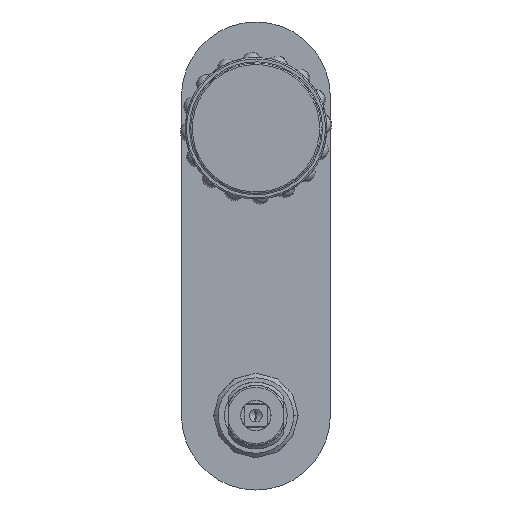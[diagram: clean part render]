
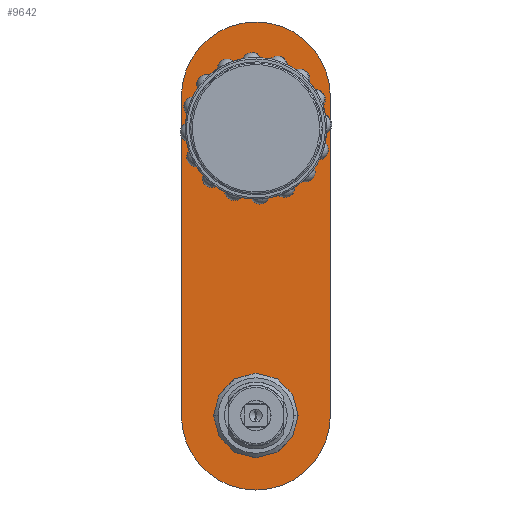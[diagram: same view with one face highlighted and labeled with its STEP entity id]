
A CAD part, front view. The second image highlights one B-rep face of the part: STEP entity #9642.
In plain terms, the highlighted planar face has unit normal (0, -1, 0).
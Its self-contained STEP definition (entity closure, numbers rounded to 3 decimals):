
#9388 = VERTEX_POINT ( 'NONE', #17090 ) ;
#9396 = EDGE_CURVE ( 'NONE', #9388, #9401, #17093, .T. ) ;
#9401 = VERTEX_POINT ( 'NONE', #17145 ) ;
#9467 = VERTEX_POINT ( 'NONE', #17270 ) ;
#9468 = EDGE_CURVE ( 'NONE', #9483, #9467, #17269, .T. ) ;
#9483 = VERTEX_POINT ( 'NONE', #17284 ) ;
#9592 = ORIENTED_EDGE ( 'NONE', *, *, #9700, .T. ) ;
#9632 = EDGE_LOOP ( 'NONE', ( #9592, #9643, #9704, #9706 ) ) ;
#9634 = VERTEX_POINT ( 'NONE', #17555 ) ;
#9638 = EDGE_LOOP ( 'NONE', ( #9701, #9655 ) ) ;
#9642 = ADVANCED_FACE ( 'NONE', ( #17605, #17602, #17597 ), #17556, .F. ) ;
#9643 = ORIENTED_EDGE ( 'NONE', *, *, #9644, .F. ) ;
#9644 = EDGE_CURVE ( 'NONE', #9645, #9634, #17593, .T. ) ;
#9645 = VERTEX_POINT ( 'NONE', #17594 ) ;
#9647 = EDGE_CURVE ( 'NONE', #9702, #9649, #17650, .T. ) ;
#9649 = VERTEX_POINT ( 'NONE', #17604 ) ;
#9655 = ORIENTED_EDGE ( 'NONE', *, *, #9396, .F. ) ;
#9687 = ORIENTED_EDGE ( 'NONE', *, *, #9468, .F. ) ;
#9688 = EDGE_CURVE ( 'NONE', #9401, #9388, #17703, .T. ) ;
#9700 = EDGE_CURVE ( 'NONE', #9649, #9634, #17732, .T. ) ;
#9701 = ORIENTED_EDGE ( 'NONE', *, *, #9688, .F. ) ;
#9702 = VERTEX_POINT ( 'NONE', #17731 ) ;
#9703 = EDGE_CURVE ( 'NONE', #9645, #9702, #17679, .T. ) ;
#9704 = ORIENTED_EDGE ( 'NONE', *, *, #9703, .T. ) ;
#9705 = EDGE_CURVE ( 'NONE', #9467, #9483, #17692, .T. ) ;
#9706 = ORIENTED_EDGE ( 'NONE', *, *, #9647, .T. ) ;
#9707 = EDGE_LOOP ( 'NONE', ( #9708, #9687 ) ) ;
#9708 = ORIENTED_EDGE ( 'NONE', *, *, #9705, .F. ) ;
#17090 = CARTESIAN_POINT ( 'NONE',  ( 22.5, 0., 95. ) ) ;
#17093 = CIRCLE ( 'NONE', #17148, 22.5 ) ;
#17145 = CARTESIAN_POINT ( 'NONE',  ( -22.5, 0., 95. ) ) ;
#17146 = DIRECTION ( 'NONE',  ( -1., 0., 0. ) ) ;
#17147 = DIRECTION ( 'NONE',  ( 0., -1., 0. ) ) ;
#17148 = AXIS2_PLACEMENT_3D ( 'NONE', #17150, #17147, #17146 ) ;
#17150 = CARTESIAN_POINT ( 'NONE',  ( 0., 0., 95. ) ) ;
#17247 = AXIS2_PLACEMENT_3D ( 'NONE', #17299, #17298, #17297 ) ;
#17269 = CIRCLE ( 'NONE', #17247, 11. ) ;
#17270 = CARTESIAN_POINT ( 'NONE',  ( -11., 0., 0. ) ) ;
#17284 = CARTESIAN_POINT ( 'NONE',  ( 11., 0., 0. ) ) ;
#17297 = DIRECTION ( 'NONE',  ( -1., 0., 0. ) ) ;
#17298 = DIRECTION ( 'NONE',  ( 0., -1., 0. ) ) ;
#17299 = CARTESIAN_POINT ( 'NONE',  ( 0., 0., 0. ) ) ;
#17489 = CARTESIAN_POINT ( 'NONE',  ( 0., 0., 0. ) ) ;
#17555 = CARTESIAN_POINT ( 'NONE',  ( -24.5, 0., 0. ) ) ;
#17556 = PLANE ( 'NONE',  #17610 ) ;
#17586 = CARTESIAN_POINT ( 'NONE',  ( -13.926, 0., 105. ) ) ;
#17587 = DIRECTION ( 'NONE',  ( 0., 0., 1. ) ) ;
#17588 = DIRECTION ( 'NONE',  ( 0., 1., 0. ) ) ;
#17590 = AXIS2_PLACEMENT_3D ( 'NONE', #17601, #17646, #17645 ) ;
#17591 = DIRECTION ( 'NONE',  ( -1., 0., 0. ) ) ;
#17592 = DIRECTION ( 'NONE',  ( 0., 1., 0. ) ) ;
#17593 = CIRCLE ( 'NONE', #17603, 24.5 ) ;
#17594 = CARTESIAN_POINT ( 'NONE',  ( 24.5, 0., 0. ) ) ;
#17597 = FACE_BOUND ( 'NONE', #9638, .T. ) ;
#17601 = CARTESIAN_POINT ( 'NONE',  ( 0., 0., 105. ) ) ;
#17602 = FACE_BOUND ( 'NONE', #9707, .T. ) ;
#17603 = AXIS2_PLACEMENT_3D ( 'NONE', #17489, #17588, #17587 ) ;
#17604 = CARTESIAN_POINT ( 'NONE',  ( -24.5, 0., 105. ) ) ;
#17605 = FACE_OUTER_BOUND ( 'NONE', #9632, .T. ) ;
#17610 = AXIS2_PLACEMENT_3D ( 'NONE', #17586, #17592, #17591 ) ;
#17645 = DIRECTION ( 'NONE',  ( 0., 0., -1. ) ) ;
#17646 = DIRECTION ( 'NONE',  ( 0., -1., 0. ) ) ;
#17650 = CIRCLE ( 'NONE', #17590, 24.5 ) ;
#17679 = LINE ( 'NONE', #17726, #17725 ) ;
#17692 = CIRCLE ( 'NONE', #17720, 11. ) ;
#17693 = DIRECTION ( 'NONE',  ( -1., 0., 0. ) ) ;
#17694 = DIRECTION ( 'NONE',  ( 0., -1., 0. ) ) ;
#17695 = CARTESIAN_POINT ( 'NONE',  ( 0., 0., 95. ) ) ;
#17703 = CIRCLE ( 'NONE', #17704, 22.5 ) ;
#17704 = AXIS2_PLACEMENT_3D ( 'NONE', #17695, #17694, #17693 ) ;
#17718 = DIRECTION ( 'NONE',  ( -1., 0., 0. ) ) ;
#17719 = DIRECTION ( 'NONE',  ( 0., -1., 0. ) ) ;
#17720 = AXIS2_PLACEMENT_3D ( 'NONE', #17727, #17719, #17718 ) ;
#17724 = DIRECTION ( 'NONE',  ( 0., 0., 1. ) ) ;
#17725 = VECTOR ( 'NONE', #17724, 1000. ) ;
#17726 = CARTESIAN_POINT ( 'NONE',  ( 24.5, 0., 0. ) ) ;
#17727 = CARTESIAN_POINT ( 'NONE',  ( 0., 0., 0. ) ) ;
#17728 = DIRECTION ( 'NONE',  ( 0., 0., -1. ) ) ;
#17729 = VECTOR ( 'NONE', #17728, 1000. ) ;
#17730 = CARTESIAN_POINT ( 'NONE',  ( -24.5, 0., 105. ) ) ;
#17731 = CARTESIAN_POINT ( 'NONE',  ( 24.5, 0., 105. ) ) ;
#17732 = LINE ( 'NONE', #17730, #17729 ) ;
